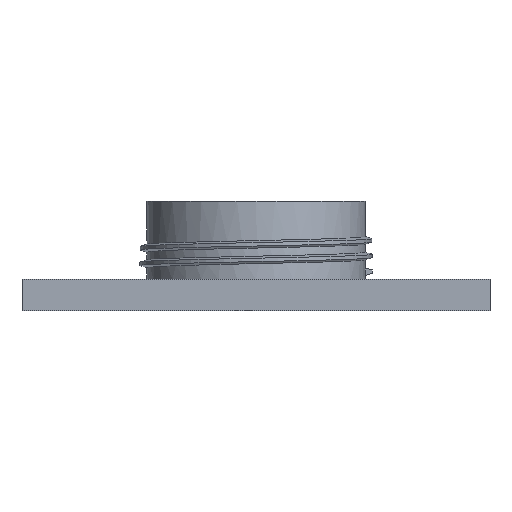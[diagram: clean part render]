
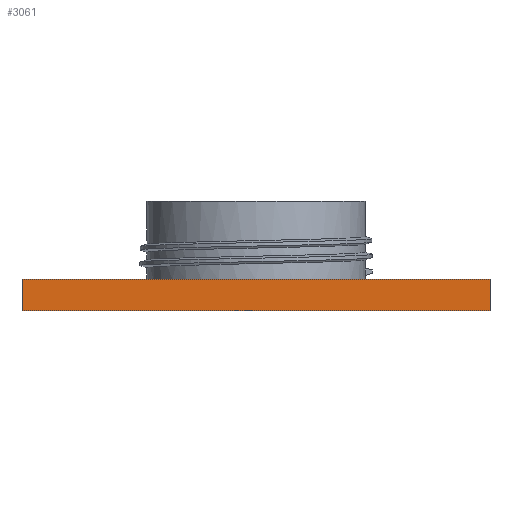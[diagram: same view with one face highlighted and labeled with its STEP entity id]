
A CAD part, front view. The second image highlights one B-rep face of the part: STEP entity #3061.
In plain terms, the highlighted planar face has unit normal (0, -1, 0).
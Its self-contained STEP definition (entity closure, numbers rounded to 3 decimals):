
#21 = EDGE_CURVE('',#22,#24,#26,.T.);
#22 = VERTEX_POINT('',#23);
#23 = CARTESIAN_POINT('',(-30.,-35.,0.));
#24 = VERTEX_POINT('',#25);
#25 = CARTESIAN_POINT('',(-30.,-35.,4.));
#26 = SURFACE_CURVE('',#27,(#31,#43),.PCURVE_S1.);
#27 = LINE('',#28,#29);
#28 = CARTESIAN_POINT('',(-30.,-35.,0.));
#29 = VECTOR('',#30,1.);
#30 = DIRECTION('',(0.,0.,1.));
#31 = PCURVE('',#32,#37);
#32 = PLANE('',#33);
#33 = AXIS2_PLACEMENT_3D('',#34,#35,#36);
#34 = CARTESIAN_POINT('',(-30.,-35.,0.));
#35 = DIRECTION('',(1.,0.,0.));
#36 = DIRECTION('',(0.,0.,1.));
#37 = DEFINITIONAL_REPRESENTATION('',(#38),#42);
#38 = LINE('',#39,#40);
#39 = CARTESIAN_POINT('',(0.,0.));
#40 = VECTOR('',#41,1.);
#41 = DIRECTION('',(1.,0.));
#42 = ( GEOMETRIC_REPRESENTATION_CONTEXT(2) 
PARAMETRIC_REPRESENTATION_CONTEXT() REPRESENTATION_CONTEXT('2D SPACE',''
  ) );
#43 = PCURVE('',#44,#49);
#44 = PLANE('',#45);
#45 = AXIS2_PLACEMENT_3D('',#46,#47,#48);
#46 = CARTESIAN_POINT('',(-30.,-35.,0.));
#47 = DIRECTION('',(0.,1.,0.));
#48 = DIRECTION('',(0.,0.,1.));
#49 = DEFINITIONAL_REPRESENTATION('',(#50),#54);
#50 = LINE('',#51,#52);
#51 = CARTESIAN_POINT('',(0.,0.));
#52 = VECTOR('',#53,1.);
#53 = DIRECTION('',(1.,0.));
#54 = ( GEOMETRIC_REPRESENTATION_CONTEXT(2) 
PARAMETRIC_REPRESENTATION_CONTEXT() REPRESENTATION_CONTEXT('2D SPACE',''
  ) );
#72 = PLANE('',#73);
#73 = AXIS2_PLACEMENT_3D('',#74,#75,#76);
#74 = CARTESIAN_POINT('',(-30.,-35.,0.));
#75 = DIRECTION('',(0.,0.,1.));
#76 = DIRECTION('',(1.,0.,0.));
#126 = PLANE('',#127);
#127 = AXIS2_PLACEMENT_3D('',#128,#129,#130);
#128 = CARTESIAN_POINT('',(-30.,-35.,4.));
#129 = DIRECTION('',(0.,0.,1.));
#130 = DIRECTION('',(1.,0.,0.));
#142 = EDGE_CURVE('',#22,#143,#145,.T.);
#143 = VERTEX_POINT('',#144);
#144 = CARTESIAN_POINT('',(30.,-35.,0.));
#145 = SURFACE_CURVE('',#146,(#150,#157),.PCURVE_S1.);
#146 = LINE('',#147,#148);
#147 = CARTESIAN_POINT('',(-30.,-35.,0.));
#148 = VECTOR('',#149,1.);
#149 = DIRECTION('',(1.,0.,0.));
#150 = PCURVE('',#72,#151);
#151 = DEFINITIONAL_REPRESENTATION('',(#152),#156);
#152 = LINE('',#153,#154);
#153 = CARTESIAN_POINT('',(0.,0.));
#154 = VECTOR('',#155,1.);
#155 = DIRECTION('',(1.,0.));
#156 = ( GEOMETRIC_REPRESENTATION_CONTEXT(2) 
PARAMETRIC_REPRESENTATION_CONTEXT() REPRESENTATION_CONTEXT('2D SPACE',''
  ) );
#157 = PCURVE('',#44,#158);
#158 = DEFINITIONAL_REPRESENTATION('',(#159),#163);
#159 = LINE('',#160,#161);
#160 = CARTESIAN_POINT('',(0.,0.));
#161 = VECTOR('',#162,1.);
#162 = DIRECTION('',(0.,1.));
#163 = ( GEOMETRIC_REPRESENTATION_CONTEXT(2) 
PARAMETRIC_REPRESENTATION_CONTEXT() REPRESENTATION_CONTEXT('2D SPACE',''
  ) );
#181 = PLANE('',#182);
#182 = AXIS2_PLACEMENT_3D('',#183,#184,#185);
#183 = CARTESIAN_POINT('',(30.,-35.,0.));
#184 = DIRECTION('',(1.,0.,0.));
#185 = DIRECTION('',(0.,0.,1.));
#2925 = EDGE_CURVE('',#143,#2926,#2928,.T.);
#2926 = VERTEX_POINT('',#2927);
#2927 = CARTESIAN_POINT('',(30.,-35.,4.));
#2928 = SURFACE_CURVE('',#2929,(#2933,#2940),.PCURVE_S1.);
#2929 = LINE('',#2930,#2931);
#2930 = CARTESIAN_POINT('',(30.,-35.,0.));
#2931 = VECTOR('',#2932,1.);
#2932 = DIRECTION('',(0.,0.,1.));
#2933 = PCURVE('',#181,#2934);
#2934 = DEFINITIONAL_REPRESENTATION('',(#2935),#2939);
#2935 = LINE('',#2936,#2937);
#2936 = CARTESIAN_POINT('',(0.,0.));
#2937 = VECTOR('',#2938,1.);
#2938 = DIRECTION('',(1.,0.));
#2939 = ( GEOMETRIC_REPRESENTATION_CONTEXT(2) 
PARAMETRIC_REPRESENTATION_CONTEXT() REPRESENTATION_CONTEXT('2D SPACE',''
  ) );
#2940 = PCURVE('',#44,#2941);
#2941 = DEFINITIONAL_REPRESENTATION('',(#2942),#2946);
#2942 = LINE('',#2943,#2944);
#2943 = CARTESIAN_POINT('',(0.,60.));
#2944 = VECTOR('',#2945,1.);
#2945 = DIRECTION('',(1.,0.));
#2946 = ( GEOMETRIC_REPRESENTATION_CONTEXT(2) 
PARAMETRIC_REPRESENTATION_CONTEXT() REPRESENTATION_CONTEXT('2D SPACE',''
  ) );
#3024 = EDGE_CURVE('',#24,#2926,#3025,.T.);
#3025 = SURFACE_CURVE('',#3026,(#3030,#3037),.PCURVE_S1.);
#3026 = LINE('',#3027,#3028);
#3027 = CARTESIAN_POINT('',(-30.,-35.,4.));
#3028 = VECTOR('',#3029,1.);
#3029 = DIRECTION('',(1.,0.,0.));
#3030 = PCURVE('',#126,#3031);
#3031 = DEFINITIONAL_REPRESENTATION('',(#3032),#3036);
#3032 = LINE('',#3033,#3034);
#3033 = CARTESIAN_POINT('',(0.,0.));
#3034 = VECTOR('',#3035,1.);
#3035 = DIRECTION('',(1.,0.));
#3036 = ( GEOMETRIC_REPRESENTATION_CONTEXT(2) 
PARAMETRIC_REPRESENTATION_CONTEXT() REPRESENTATION_CONTEXT('2D SPACE',''
  ) );
#3037 = PCURVE('',#44,#3038);
#3038 = DEFINITIONAL_REPRESENTATION('',(#3039),#3043);
#3039 = LINE('',#3040,#3041);
#3040 = CARTESIAN_POINT('',(4.,0.));
#3041 = VECTOR('',#3042,1.);
#3042 = DIRECTION('',(0.,1.));
#3043 = ( GEOMETRIC_REPRESENTATION_CONTEXT(2) 
PARAMETRIC_REPRESENTATION_CONTEXT() REPRESENTATION_CONTEXT('2D SPACE',''
  ) );
#3061 = ADVANCED_FACE('',(#3062),#44,.F.);
#3062 = FACE_BOUND('',#3063,.F.);
#3063 = EDGE_LOOP('',(#3064,#3065,#3066,#3067));
#3064 = ORIENTED_EDGE('',*,*,#142,.F.);
#3065 = ORIENTED_EDGE('',*,*,#21,.T.);
#3066 = ORIENTED_EDGE('',*,*,#3024,.T.);
#3067 = ORIENTED_EDGE('',*,*,#2925,.F.);
